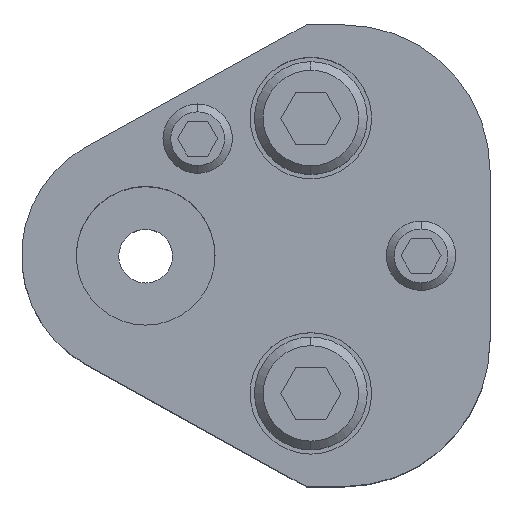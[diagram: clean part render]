
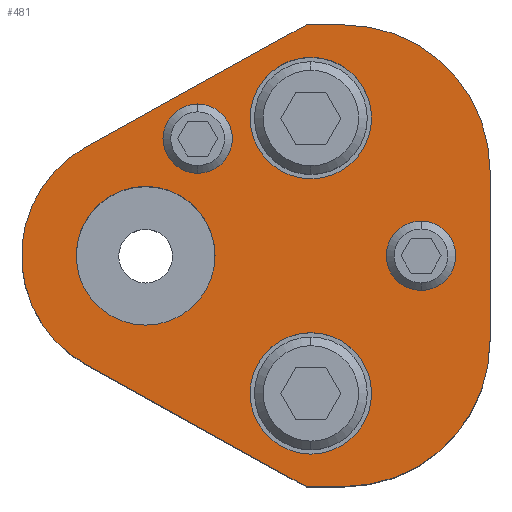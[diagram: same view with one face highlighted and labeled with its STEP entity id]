
A CAD part, top view. The second image highlights one B-rep face of the part: STEP entity #481.
In plain terms, the highlighted planar face has unit normal (0, 0, 1).
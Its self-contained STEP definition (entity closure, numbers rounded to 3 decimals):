
#213=FACE_BOUND('',#843,.T.);
#214=FACE_BOUND('',#844,.T.);
#215=FACE_BOUND('',#845,.T.);
#216=FACE_BOUND('',#846,.T.);
#217=FACE_BOUND('',#847,.T.);
#218=FACE_BOUND('',#848,.T.);
#303=CIRCLE('',#2712,16.8);
#305=CIRCLE('',#2716,16.8);
#308=CIRCLE('',#2722,14.3);
#309=CIRCLE('',#2724,4.);
#311=CIRCLE('',#2727,4.);
#313=CIRCLE('',#2730,4.);
#315=CIRCLE('',#2733,4.);
#325=CIRCLE('',#2748,7.);
#326=CIRCLE('',#2749,7.);
#327=CIRCLE('',#2750,7.);
#328=CIRCLE('',#2751,7.);
#329=CIRCLE('',#2752,8.);
#330=CIRCLE('',#2753,8.);
#481=ADVANCED_FACE('',(#213,#214,#215,#216,#217,#218),#595,.T.);
#595=PLANE('',#2754);
#843=EDGE_LOOP('',(#1257,#1258,#1259,#1260,#1261,#1262,#1263,#1264));
#844=EDGE_LOOP('',(#1265,#1266));
#845=EDGE_LOOP('',(#1267,#1268));
#846=EDGE_LOOP('',(#1269,#1270));
#847=EDGE_LOOP('',(#1271,#1272));
#848=EDGE_LOOP('',(#1273,#1274));
#1257=ORIENTED_EDGE('',*,*,#1996,.T.);
#1258=ORIENTED_EDGE('',*,*,#2000,.T.);
#1259=ORIENTED_EDGE('',*,*,#2003,.T.);
#1260=ORIENTED_EDGE('',*,*,#2006,.T.);
#1261=ORIENTED_EDGE('',*,*,#2009,.T.);
#1262=ORIENTED_EDGE('',*,*,#2012,.T.);
#1263=ORIENTED_EDGE('',*,*,#2015,.T.);
#1264=ORIENTED_EDGE('',*,*,#2018,.T.);
#1265=ORIENTED_EDGE('',*,*,#2043,.F.);
#1266=ORIENTED_EDGE('',*,*,#2044,.F.);
#1267=ORIENTED_EDGE('',*,*,#2045,.F.);
#1268=ORIENTED_EDGE('',*,*,#2046,.F.);
#1269=ORIENTED_EDGE('',*,*,#2029,.F.);
#1270=ORIENTED_EDGE('',*,*,#2025,.F.);
#1271=ORIENTED_EDGE('',*,*,#2023,.F.);
#1272=ORIENTED_EDGE('',*,*,#2019,.F.);
#1273=ORIENTED_EDGE('',*,*,#2047,.T.);
#1274=ORIENTED_EDGE('',*,*,#2048,.T.);
#1728=VERTEX_POINT('',#4024);
#1729=VERTEX_POINT('',#4026);
#1732=VERTEX_POINT('',#4033);
#1734=VERTEX_POINT('',#4039);
#1736=VERTEX_POINT('',#4045);
#1738=VERTEX_POINT('',#4051);
#1740=VERTEX_POINT('',#4057);
#1742=VERTEX_POINT('',#4063);
#1743=VERTEX_POINT('',#4071);
#1744=VERTEX_POINT('',#4072);
#1747=VERTEX_POINT('',#4083);
#1748=VERTEX_POINT('',#4084);
#1759=VERTEX_POINT('',#4119);
#1760=VERTEX_POINT('',#4120);
#1761=VERTEX_POINT('',#4123);
#1762=VERTEX_POINT('',#4124);
#1763=VERTEX_POINT('',#4127);
#1764=VERTEX_POINT('',#4128);
#1996=EDGE_CURVE('',#1729,#1728,#2294,.T.);
#2000=EDGE_CURVE('',#1728,#1732,#2298,.T.);
#2003=EDGE_CURVE('',#1732,#1734,#303,.T.);
#2006=EDGE_CURVE('',#1734,#1736,#2302,.T.);
#2009=EDGE_CURVE('',#1736,#1738,#305,.T.);
#2012=EDGE_CURVE('',#1738,#1740,#2306,.T.);
#2015=EDGE_CURVE('',#1740,#1742,#2309,.T.);
#2018=EDGE_CURVE('',#1742,#1729,#308,.T.);
#2019=EDGE_CURVE('',#1743,#1744,#309,.T.);
#2023=EDGE_CURVE('',#1744,#1743,#311,.T.);
#2025=EDGE_CURVE('',#1747,#1748,#313,.T.);
#2029=EDGE_CURVE('',#1748,#1747,#315,.T.);
#2043=EDGE_CURVE('',#1759,#1760,#325,.T.);
#2044=EDGE_CURVE('',#1760,#1759,#326,.T.);
#2045=EDGE_CURVE('',#1761,#1762,#327,.T.);
#2046=EDGE_CURVE('',#1762,#1761,#328,.T.);
#2047=EDGE_CURVE('',#1763,#1764,#329,.T.);
#2048=EDGE_CURVE('',#1764,#1763,#330,.T.);
#2294=LINE('',#4025,#2486);
#2298=LINE('',#4034,#2490);
#2302=LINE('',#4046,#2494);
#2306=LINE('',#4058,#2498);
#2309=LINE('',#4064,#2501);
#2486=VECTOR('',#3186,1.);
#2490=VECTOR('',#3192,1.);
#2494=VECTOR('',#3204,1.);
#2498=VECTOR('',#3216,1.);
#2501=VECTOR('',#3221,1.);
#2712=AXIS2_PLACEMENT_3D('',#4040,#3197,#3198);
#2716=AXIS2_PLACEMENT_3D('',#4052,#3209,#3210);
#2722=AXIS2_PLACEMENT_3D('',#4068,#3227,#3228);
#2724=AXIS2_PLACEMENT_3D('',#4070,#3231,#3232);
#2727=AXIS2_PLACEMENT_3D('',#4079,#3239,#3240);
#2730=AXIS2_PLACEMENT_3D('',#4082,#3245,#3246);
#2733=AXIS2_PLACEMENT_3D('',#4091,#3253,#3254);
#2748=AXIS2_PLACEMENT_3D('',#4118,#3287,#3288);
#2749=AXIS2_PLACEMENT_3D('',#4121,#3289,#3290);
#2750=AXIS2_PLACEMENT_3D('',#4122,#3291,#3292);
#2751=AXIS2_PLACEMENT_3D('',#4125,#3293,#3294);
#2752=AXIS2_PLACEMENT_3D('',#4126,#3295,#3296);
#2753=AXIS2_PLACEMENT_3D('',#4129,#3297,#3298);
#2754=AXIS2_PLACEMENT_3D('',#4130,#3299,#3300);
#3186=DIRECTION('',(0.875,-0.485,0.));
#3192=DIRECTION('',(1.,0.,0.));
#3197=DIRECTION('',(0.,0.,1.));
#3198=DIRECTION('',(-0.707,0.707,0.));
#3204=DIRECTION('',(0.,1.,0.));
#3209=DIRECTION('',(0.,0.,1.));
#3210=DIRECTION('',(-0.707,-0.707,0.));
#3216=DIRECTION('',(-1.,0.,0.));
#3221=DIRECTION('',(-0.875,-0.485,0.));
#3227=DIRECTION('',(0.,0.,1.));
#3228=DIRECTION('',(1.,0.,0.));
#3231=DIRECTION('',(0.,0.,1.));
#3232=DIRECTION('',(-1.,0.,0.));
#3239=DIRECTION('',(0.,0.,1.));
#3240=DIRECTION('',(1.,0.,0.));
#3245=DIRECTION('',(0.,0.,1.));
#3246=DIRECTION('',(-1.,0.,0.));
#3253=DIRECTION('',(0.,0.,1.));
#3254=DIRECTION('',(1.,0.,0.));
#3287=DIRECTION('',(0.,0.,1.));
#3288=DIRECTION('',(1.,0.,0.));
#3289=DIRECTION('',(0.,0.,1.));
#3290=DIRECTION('',(-1.,0.,0.));
#3291=DIRECTION('',(0.,0.,1.));
#3292=DIRECTION('',(1.,0.,0.));
#3293=DIRECTION('',(0.,0.,1.));
#3294=DIRECTION('',(-1.,0.,0.));
#3295=DIRECTION('',(0.,0.,-1.));
#3296=DIRECTION('',(-1.,0.,0.));
#3297=DIRECTION('',(0.,0.,-1.));
#3298=DIRECTION('',(1.,0.,0.));
#3299=DIRECTION('',(0.,0.,1.));
#3300=DIRECTION('',(-0.875,0.485,0.));
#4024=CARTESIAN_POINT('',(18.492,-26.6,37.));
#4025=CARTESIAN_POINT('',(18.492,-26.6,37.));
#4026=CARTESIAN_POINT('',(-6.933,-12.507,37.));
#4033=CARTESIAN_POINT('',(22.9,-26.6,37.));
#4034=CARTESIAN_POINT('',(18.492,-26.6,37.));
#4039=CARTESIAN_POINT('',(39.7,-9.8,37.));
#4040=CARTESIAN_POINT('',(22.9,-9.8,37.));
#4045=CARTESIAN_POINT('',(39.7,9.8,37.));
#4046=CARTESIAN_POINT('',(39.7,9.8,37.));
#4051=CARTESIAN_POINT('',(22.9,26.6,37.));
#4052=CARTESIAN_POINT('',(22.9,9.8,37.));
#4057=CARTESIAN_POINT('',(18.492,26.6,37.));
#4058=CARTESIAN_POINT('',(18.492,26.6,37.));
#4063=CARTESIAN_POINT('',(-6.933,12.507,37.));
#4064=CARTESIAN_POINT('',(18.492,26.6,37.));
#4068=CARTESIAN_POINT('',(0.,0.,37.));
#4070=CARTESIAN_POINT('',(6.,13.5,37.));
#4071=CARTESIAN_POINT('',(6.,9.5,37.));
#4072=CARTESIAN_POINT('',(6.,17.5,37.));
#4079=CARTESIAN_POINT('',(6.,13.5,37.));
#4082=CARTESIAN_POINT('',(31.75,0.,37.));
#4083=CARTESIAN_POINT('',(31.75,-4.,37.));
#4084=CARTESIAN_POINT('',(31.75,4.,37.));
#4091=CARTESIAN_POINT('',(31.75,0.,37.));
#4118=CARTESIAN_POINT('',(19.05,15.87,37.));
#4119=CARTESIAN_POINT('',(19.05,22.87,37.));
#4120=CARTESIAN_POINT('',(19.05,8.87,37.));
#4121=CARTESIAN_POINT('',(19.05,15.87,37.));
#4122=CARTESIAN_POINT('',(19.05,-15.87,37.));
#4123=CARTESIAN_POINT('',(19.05,-8.87,37.));
#4124=CARTESIAN_POINT('',(19.05,-22.87,37.));
#4125=CARTESIAN_POINT('',(19.05,-15.87,37.));
#4126=CARTESIAN_POINT('',(0.,0.,37.));
#4127=CARTESIAN_POINT('',(0.,8.,37.));
#4128=CARTESIAN_POINT('',(0.,-8.,37.));
#4129=CARTESIAN_POINT('',(0.,0.,37.));
#4130=CARTESIAN_POINT('',(-6.933,-12.507,37.));
